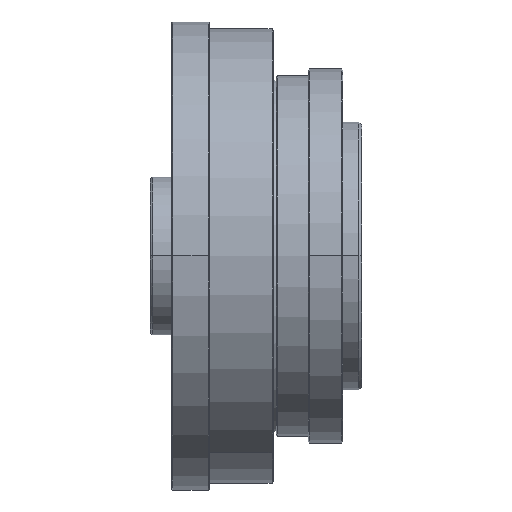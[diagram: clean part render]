
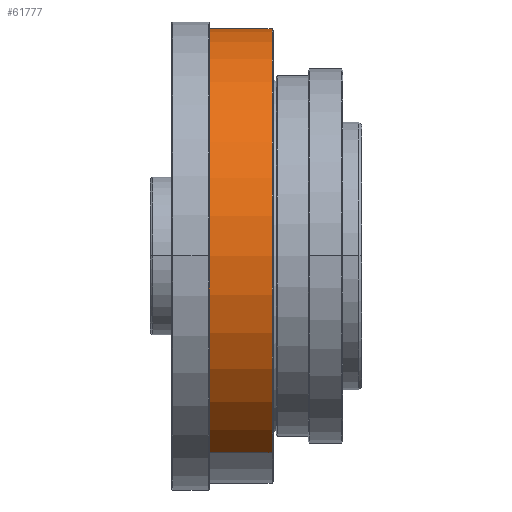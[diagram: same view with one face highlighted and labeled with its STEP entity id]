
A CAD part, top view. The second image highlights one B-rep face of the part: STEP entity #61777.
In plain terms, the highlighted cylindrical face has radius 85 mm (diameter 170 mm), a partial arc.
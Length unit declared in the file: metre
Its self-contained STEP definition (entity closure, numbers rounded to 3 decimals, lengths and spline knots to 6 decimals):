
#836 = CARTESIAN_POINT ( 'NONE',  ( 0.122638, -0.073612, 0.0425 ) ) ;
#1280 = LINE ( 'NONE', #836, #36380 ) ;
#2599 = DIRECTION ( 'NONE',  ( 1., 0., 0. ) ) ;
#2954 = EDGE_CURVE ( 'NONE', #21113, #33051, #35662, .T. ) ;
#4319 = DIRECTION ( 'NONE',  ( -1., 0., 0. ) ) ;
#4878 = DIRECTION ( 'NONE',  ( 1., 0., 0. ) ) ;
#6793 = AXIS2_PLACEMENT_3D ( 'NONE', #38669, #4319, #19020 ) ;
#12242 = ORIENTED_EDGE ( 'NONE', *, *, #29170, .T. ) ;
#12455 = DIRECTION ( 'NONE',  ( 0., 0.866, -0.5 ) ) ;
#19020 = DIRECTION ( 'NONE',  ( 0., 0.866, -0.5 ) ) ;
#19419 = CARTESIAN_POINT ( 'NONE',  ( 0.071672, 0., 0. ) ) ;
#21113 = VERTEX_POINT ( 'NONE', #48225 ) ;
#25844 = CYLINDRICAL_SURFACE ( 'NONE', #86605, 0.085 ) ;
#28484 = DIRECTION ( 'NONE',  ( 1., 0., 0. ) ) ;
#29170 = EDGE_CURVE ( 'NONE', #36054, #79333, #1280, .T. ) ;
#31016 = CIRCLE ( 'NONE', #6793, 0.085 ) ;
#32376 = DIRECTION ( 'NONE',  ( 1., 0., 0. ) ) ;
#33051 = VERTEX_POINT ( 'NONE', #66090 ) ;
#34936 = ORIENTED_EDGE ( 'NONE', *, *, #58871, .T. ) ;
#35662 = LINE ( 'NONE', #49449, #64009 ) ;
#36054 = VERTEX_POINT ( 'NONE', #62021 ) ;
#36163 = ORIENTED_EDGE ( 'NONE', *, *, #2954, .F. ) ;
#36380 = VECTOR ( 'NONE', #28484, 1. ) ;
#38669 = CARTESIAN_POINT ( 'NONE',  ( 0.099672, 0., 0. ) ) ;
#41203 = EDGE_LOOP ( 'NONE', ( #34936, #12242, #49683, #36163 ) ) ;
#48225 = CARTESIAN_POINT ( 'NONE',  ( 0.071672, 0.073612, -0.0425 ) ) ;
#49449 = CARTESIAN_POINT ( 'NONE',  ( 0.122638, 0.073612, -0.0425 ) ) ;
#49683 = ORIENTED_EDGE ( 'NONE', *, *, #60881, .T. ) ;
#58871 = EDGE_CURVE ( 'NONE', #21113, #36054, #62125, .T. ) ;
#60881 = EDGE_CURVE ( 'NONE', #79333, #33051, #31016, .T. ) ;
#61777 = ADVANCED_FACE ( 'NONE', ( #86938 ), #25844, .T. ) ;
#62021 = CARTESIAN_POINT ( 'NONE',  ( 0.071672, -0.073612, 0.0425 ) ) ;
#62125 = CIRCLE ( 'NONE', #76328, 0.085 ) ;
#64009 = VECTOR ( 'NONE', #2599, 1. ) ;
#66090 = CARTESIAN_POINT ( 'NONE',  ( 0.099672, 0.073612, -0.0425 ) ) ;
#70063 = CARTESIAN_POINT ( 'NONE',  ( 0.099672, -0.073612, 0.0425 ) ) ;
#73547 = CARTESIAN_POINT ( 'NONE',  ( 0.122638, 0., 0. ) ) ;
#76328 = AXIS2_PLACEMENT_3D ( 'NONE', #19419, #32376, #87244 ) ;
#79333 = VERTEX_POINT ( 'NONE', #70063 ) ;
#86605 = AXIS2_PLACEMENT_3D ( 'NONE', #73547, #4878, #12455 ) ;
#86938 = FACE_OUTER_BOUND ( 'NONE', #41203, .T. ) ;
#87244 = DIRECTION ( 'NONE',  ( 0., 0.866, -0.5 ) ) ;
